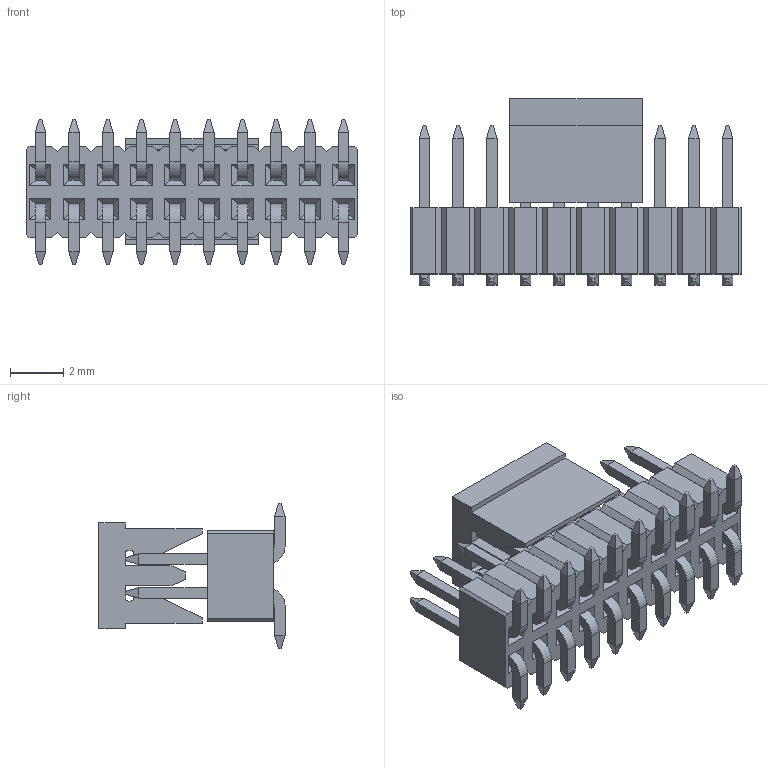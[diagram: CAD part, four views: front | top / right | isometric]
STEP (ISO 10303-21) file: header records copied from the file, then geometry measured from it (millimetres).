
FILE_DESCRIPTION (( 'STEP AP214' ), '1' );
FILE_NAME ('2215-2X10G00DN-3.1B-H2.5-P.STEP', '2020-01-17T08:00:00', ( '' ), ( '' ), 'SwSTEP 2.0', 'SolidWorks 2011', '' );
FILE_SCHEMA (( 'AUTOMOTIVE_DESIGN' ));
Length unit declared in the file: millimetre
Products named in the file (5): Housing-2215-2X10; 2215-2X10G00DN-3.1B-H2.5-P; Pin-2215-2X10; Cap-2215-2X10; 2215-2X10G00DN-3.1B-H2.5-P_1
Assembly tree (23 placements, depth 3):
  2215-2X10G00DN-3.1B-H2.5-P
    2215-2X10G00DN-3.1B-H2.5-P_1
      Pin-2215-2X10  x20
      Cap-2215-2X10
      Housing-2215-2X10
Bounding box: 12.5 x 7.02 x 5.5 mm (x, y, z)
Volume: 169.4 mm3; surface area: 623.3 mm2
Topology: 22 solids, 22 shells, 614 faces, 1470 edges, 900 vertices
Faces by surface type: plane 570, cylinder 44
Entity records: 8474 total; most frequent: CARTESIAN_POINT 1453, ORIENTED_EDGE 1420, DIRECTION 1320, EDGE_CURVE 710, LINE 698, VECTOR 698, VERTEX_POINT 444, EDGE_LOOP 312
